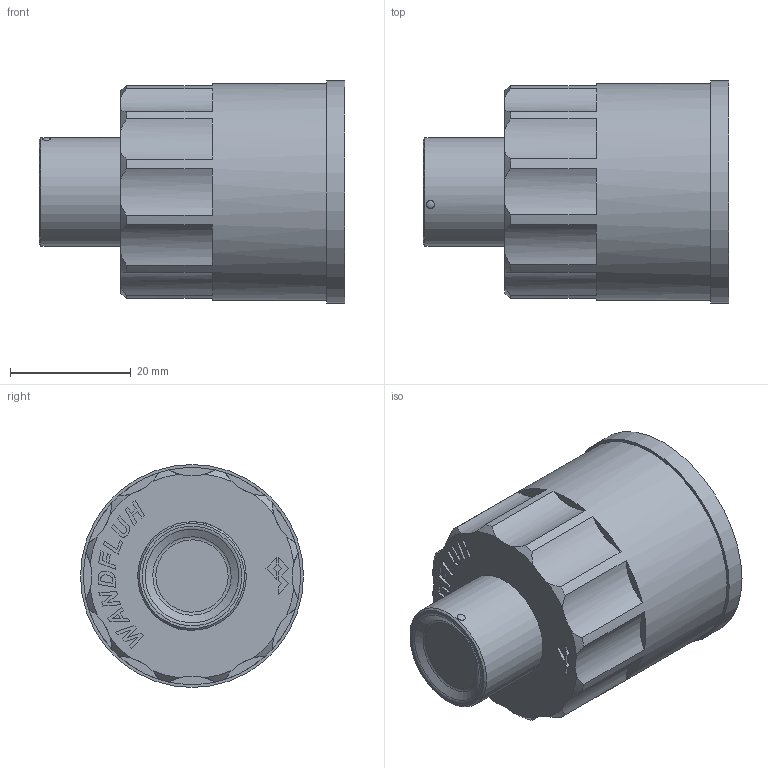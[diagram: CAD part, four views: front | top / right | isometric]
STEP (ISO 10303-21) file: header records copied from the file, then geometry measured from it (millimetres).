
FILE_DESCRIPTION (( 'STEP AP214' ), '1' );
FILE_NAME ('HF1.STEP', '2018-03-09T09:00:53', ( '' ), ( '' ), 'SwSTEP 2.0', 'SolidWorks 2016', '' );
FILE_SCHEMA (( 'AUTOMOTIVE_DESIGN' ));
Length unit declared in the file: millimetre
Products named in the file (1): HF1
Bounding box: 50.7 x 37 x 37 mm (x, y, z)
Volume: 27203.6 mm3; surface area: 11167.1 mm2
Topology: 3 solids, 3 shells, 196 faces, 497 edges, 328 vertices
Faces by surface type: plane 127, cylinder 23, cone 19, bspline 16, torus 7, sphere 4
Full cylindrical faces by diameter (mm): 4 x2, 7.6 x1, 9 x1, 18 x2, 21.6 x2, 24.5 x1, 36 x1, 37 x1
Entity records: 8774 total; most frequent: CARTESIAN_POINT 2013, ORIENTED_EDGE 938, DIRECTION 868, EDGE_CURVE 469, VERTEX_POINT 325, VECTOR 316, LINE 316, AXIS2_PLACEMENT_3D 276
